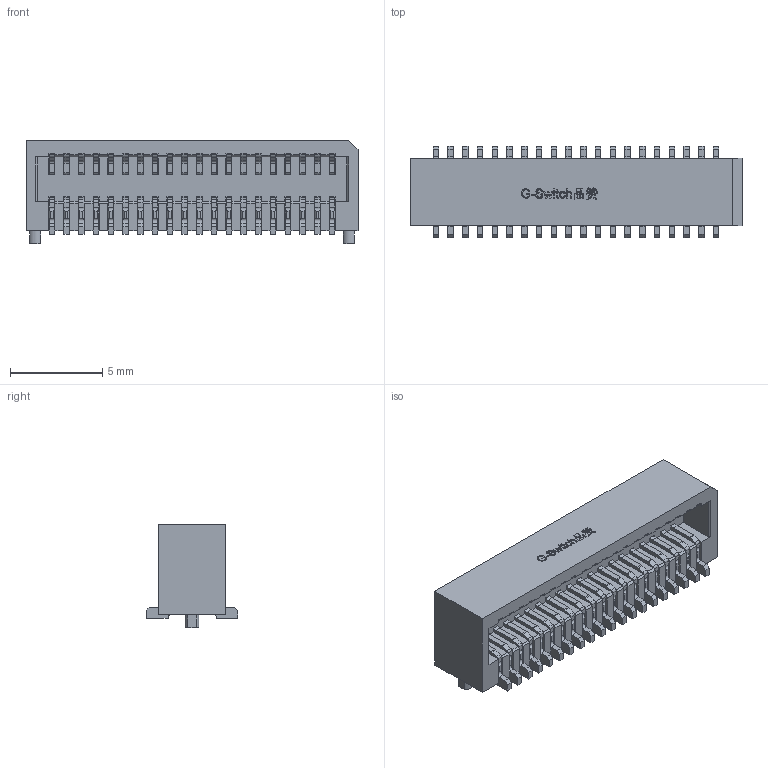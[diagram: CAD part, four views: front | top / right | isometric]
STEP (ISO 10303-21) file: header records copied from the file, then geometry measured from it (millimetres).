
FILE_DESCRIPTION (( 'STEP AP203' ), '1' );
FILE_NAME ('GT-B0802FSR51-40S1101.stp', '2024-03-15T10:02:37', ( '' ), ( '' ), 'SwSTEP 2.0', 'SolidWorks 2023', '' );
FILE_SCHEMA (( 'CONFIG_CONTROL_DESIGN' ));
Products named in the file (1): GT-B0802FSR51-40S1101
Bounding box: 18 x 4.97 x 5.6 mm (x, y, z)
Volume: 244.8 mm3; surface area: 1081.2 mm2
Topology: 1 solids, 1 shells, 2703 faces, 8297 edges, 5478 vertices
Faces by surface type: plane 1865, cylinder 764, bspline 74
Entity records: 96780 total; most frequent: CARTESIAN_POINT 21983, ORIENTED_EDGE 16594, DIRECTION 14565, EDGE_CURVE 8297, VECTOR 6293, LINE 6293, VERTEX_POINT 5478, AXIS2_PLACEMENT_3D 4136
